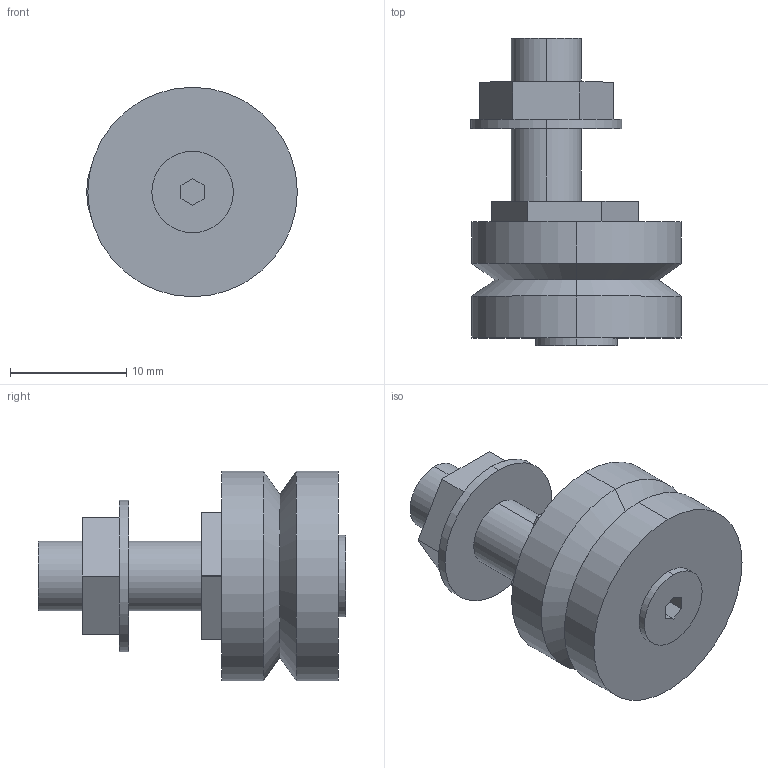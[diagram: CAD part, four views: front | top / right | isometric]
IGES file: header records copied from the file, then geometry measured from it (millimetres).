
Start section: 3D InterOp IGES (v. 2019 1.0.2), Spatial Corp. Copyright (c) 1999-2017.
Global section: file name: LJ 18 DENS.igs; native system: Spatial Corp.; preprocessor: 3D InterOp GENERIC/IGES 3.0; author: Noname; organization: Noname; date: 20220628.165351; units: millimetre
Bounding box: 18.1 x 26.4 x 18 mm (x, y, z)
Surface area: 1823.2 mm2 (no closed solid volume)
Topology: 0 solids, 0 shells, 50 faces, 228 edges, 228 vertices
Faces by surface type: extrusion 34, revolution 16
